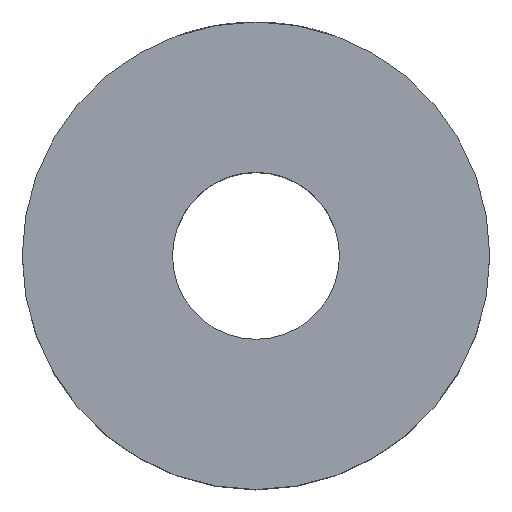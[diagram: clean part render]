
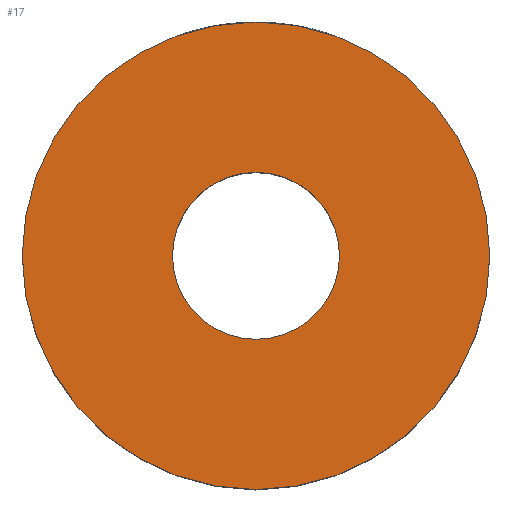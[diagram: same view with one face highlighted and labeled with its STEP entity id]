
A CAD part, top view. The second image highlights one B-rep face of the part: STEP entity #17.
In plain terms, the highlighted planar face has unit normal (0, 0, 1).
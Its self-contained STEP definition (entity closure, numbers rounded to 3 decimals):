
#17 = ADVANCED_FACE('',(#18,#54),#31,.T.);
#18 = FACE_BOUND('',#19,.T.);
#19 = EDGE_LOOP('',(#20));
#20 = ORIENTED_EDGE('',*,*,#21,.T.);
#21 = EDGE_CURVE('',#22,#22,#24,.T.);
#22 = VERTEX_POINT('',#23);
#23 = CARTESIAN_POINT('',(7.,0.,7.));
#24 = SURFACE_CURVE('',#25,(#30,#42),.PCURVE_S1.);
#25 = CIRCLE('',#26,7.);
#26 = AXIS2_PLACEMENT_3D('',#27,#28,#29);
#27 = CARTESIAN_POINT('',(0.,0.,7.));
#28 = DIRECTION('',(0.,0.,1.));
#29 = DIRECTION('',(1.,0.,-0.));
#30 = PCURVE('',#31,#36);
#31 = PLANE('',#32);
#32 = AXIS2_PLACEMENT_3D('',#33,#34,#35);
#33 = CARTESIAN_POINT('',(0.,0.,7.));
#34 = DIRECTION('',(0.,0.,1.));
#35 = DIRECTION('',(1.,0.,-0.));
#36 = DEFINITIONAL_REPRESENTATION('',(#37),#41);
#37 = CIRCLE('',#38,7.);
#38 = AXIS2_PLACEMENT_2D('',#39,#40);
#39 = CARTESIAN_POINT('',(0.,0.));
#40 = DIRECTION('',(1.,0.));
#41 = ( GEOMETRIC_REPRESENTATION_CONTEXT(2) 
PARAMETRIC_REPRESENTATION_CONTEXT() REPRESENTATION_CONTEXT('2D SPACE',''
  ) );
#42 = PCURVE('',#43,#48);
#43 = CYLINDRICAL_SURFACE('',#44,7.);
#44 = AXIS2_PLACEMENT_3D('',#45,#46,#47);
#45 = CARTESIAN_POINT('',(0.,0.,7.));
#46 = DIRECTION('',(0.,0.,-1.));
#47 = DIRECTION('',(-1.,0.,0.));
#48 = DEFINITIONAL_REPRESENTATION('',(#49),#53);
#49 = LINE('',#50,#51);
#50 = CARTESIAN_POINT('',(3.142,0.));
#51 = VECTOR('',#52,1.);
#52 = DIRECTION('',(-1.,0.));
#53 = ( GEOMETRIC_REPRESENTATION_CONTEXT(2) 
PARAMETRIC_REPRESENTATION_CONTEXT() REPRESENTATION_CONTEXT('2D SPACE',''
  ) );
#54 = FACE_BOUND('',#55,.T.);
#55 = EDGE_LOOP('',(#56));
#56 = ORIENTED_EDGE('',*,*,#57,.F.);
#57 = EDGE_CURVE('',#58,#58,#60,.T.);
#58 = VERTEX_POINT('',#59);
#59 = CARTESIAN_POINT('',(2.5,0.,7.));
#60 = SURFACE_CURVE('',#61,(#66,#73),.PCURVE_S1.);
#61 = CIRCLE('',#62,2.5);
#62 = AXIS2_PLACEMENT_3D('',#63,#64,#65);
#63 = CARTESIAN_POINT('',(0.,0.,7.));
#64 = DIRECTION('',(0.,0.,1.));
#65 = DIRECTION('',(1.,0.,-0.));
#66 = PCURVE('',#31,#67);
#67 = DEFINITIONAL_REPRESENTATION('',(#68),#72);
#68 = CIRCLE('',#69,2.5);
#69 = AXIS2_PLACEMENT_2D('',#70,#71);
#70 = CARTESIAN_POINT('',(0.,0.));
#71 = DIRECTION('',(1.,0.));
#72 = ( GEOMETRIC_REPRESENTATION_CONTEXT(2) 
PARAMETRIC_REPRESENTATION_CONTEXT() REPRESENTATION_CONTEXT('2D SPACE',''
  ) );
#73 = PCURVE('',#74,#79);
#74 = CYLINDRICAL_SURFACE('',#75,2.5);
#75 = AXIS2_PLACEMENT_3D('',#76,#77,#78);
#76 = CARTESIAN_POINT('',(0.,0.,7.));
#77 = DIRECTION('',(0.,0.,-1.));
#78 = DIRECTION('',(-1.,0.,0.));
#79 = DEFINITIONAL_REPRESENTATION('',(#80),#84);
#80 = LINE('',#81,#82);
#81 = CARTESIAN_POINT('',(3.142,0.));
#82 = VECTOR('',#83,1.);
#83 = DIRECTION('',(-1.,0.));
#84 = ( GEOMETRIC_REPRESENTATION_CONTEXT(2) 
PARAMETRIC_REPRESENTATION_CONTEXT() REPRESENTATION_CONTEXT('2D SPACE',''
  ) );
